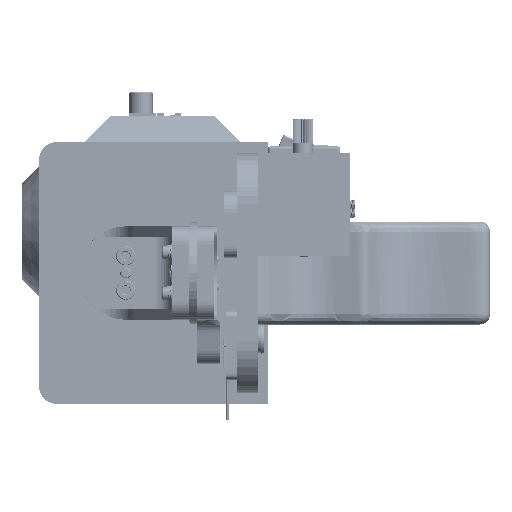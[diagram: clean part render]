
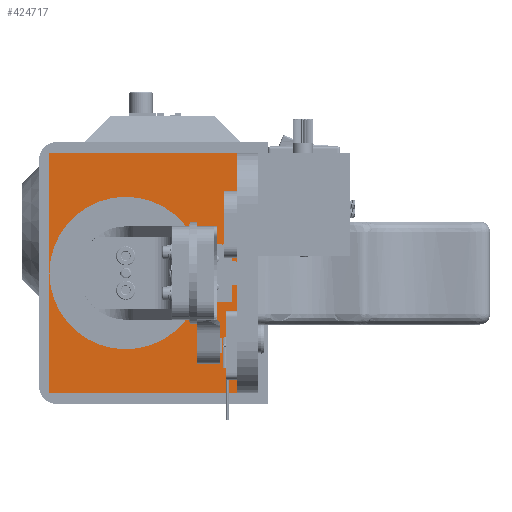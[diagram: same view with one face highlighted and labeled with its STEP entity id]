
A CAD part, left-side view. The second image highlights one B-rep face of the part: STEP entity #424717.
In plain terms, the highlighted planar face has unit normal (-1, 0, 0).
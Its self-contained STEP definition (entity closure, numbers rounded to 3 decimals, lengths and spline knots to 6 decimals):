
#22101=PLANE('',#492240);
#34192=CIRCLE('',#492235,0.002489);
#34193=CIRCLE('',#492237,0.002489);
#34194=CIRCLE('',#492239,0.001588);
#81697=LINE('',#973562,#111933);
#81704=LINE('',#973598,#111940);
#81705=LINE('',#973601,#111941);
#81706=LINE('',#973602,#111942);
#111933=VECTOR('',#583653,1.);
#111940=VECTOR('',#583688,1.);
#111941=VECTOR('',#583689,1.);
#111942=VECTOR('',#583690,1.);
#232224=ORIENTED_EDGE('',*,*,#294235,.T.);
#232225=ORIENTED_EDGE('',*,*,#294236,.T.);
#232226=ORIENTED_EDGE('',*,*,#294219,.F.);
#232227=ORIENTED_EDGE('',*,*,#294237,.F.);
#232228=ORIENTED_EDGE('',*,*,#294233,.T.);
#232229=ORIENTED_EDGE('',*,*,#294232,.T.);
#232230=ORIENTED_EDGE('',*,*,#294234,.T.);
#294219=EDGE_CURVE('',#332186,#332187,#81697,.T.);
#294232=EDGE_CURVE('',#332199,#332199,#34192,.T.);
#294233=EDGE_CURVE('',#332200,#332200,#34193,.T.);
#294234=EDGE_CURVE('',#332201,#332201,#34194,.T.);
#294235=EDGE_CURVE('',#332202,#332203,#81704,.T.);
#294236=EDGE_CURVE('',#332203,#332187,#81705,.T.);
#294237=EDGE_CURVE('',#332202,#332186,#81706,.T.);
#332186=VERTEX_POINT('',#973561);
#332187=VERTEX_POINT('',#973563);
#332199=VERTEX_POINT('',#973590);
#332200=VERTEX_POINT('',#973593);
#332201=VERTEX_POINT('',#973596);
#332202=VERTEX_POINT('',#973599);
#332203=VERTEX_POINT('',#973600);
#364730=EDGE_LOOP('',(#232224,#232225,#232226,#232227));
#364731=EDGE_LOOP('',(#232228));
#364732=EDGE_LOOP('',(#232229));
#364733=EDGE_LOOP('',(#232230));
#393037=FACE_BOUND('',#364730,.T.);
#393038=FACE_BOUND('',#364731,.T.);
#393039=FACE_BOUND('',#364732,.T.);
#393040=FACE_BOUND('',#364733,.T.);
#424717=ADVANCED_FACE('',(#393037,#393038,#393039,#393040),#22101,.F.);
#492235=AXIS2_PLACEMENT_3D('',#973589,#583676,#583677);
#492237=AXIS2_PLACEMENT_3D('',#973592,#583680,#583681);
#492239=AXIS2_PLACEMENT_3D('',#973595,#583684,#583685);
#492240=AXIS2_PLACEMENT_3D('',#973597,#583686,#583687);
#583653=DIRECTION('',(0.,0.,-1.));
#583676=DIRECTION('',(1.,0.,0.));
#583677=DIRECTION('',(0.,1.,0.));
#583680=DIRECTION('',(1.,0.,0.));
#583681=DIRECTION('',(0.,1.,0.));
#583684=DIRECTION('',(1.,0.,0.));
#583685=DIRECTION('',(0.,1.,0.));
#583686=DIRECTION('',(1.,0.,0.));
#583687=DIRECTION('',(0.,0.,1.));
#583688=DIRECTION('',(0.,0.,-1.));
#583689=DIRECTION('',(0.,-1.,0.));
#583690=DIRECTION('',(0.,-1.,0.));
#973561=CARTESIAN_POINT('',(-0.17648,-0.032535,0.05508));
#973562=CARTESIAN_POINT('',(-0.17648,-0.032535,0.020155));
#973563=CARTESIAN_POINT('',(-0.17648,-0.032535,-0.01477));
#973589=CARTESIAN_POINT('',(-0.17648,0.,0.007455));
#973590=CARTESIAN_POINT('',(-0.17648,0.002489,0.007455));
#973592=CARTESIAN_POINT('',(-0.17648,0.,0.032855));
#973593=CARTESIAN_POINT('',(-0.17648,0.002489,0.032855));
#973595=CARTESIAN_POINT('',(-0.17648,0.,0.020155));
#973596=CARTESIAN_POINT('',(-0.17648,0.001588,0.020155));
#973597=CARTESIAN_POINT('',(-0.17648,-0.003175,0.020155));
#973598=CARTESIAN_POINT('',(-0.17648,0.022225,0.020155));
#973599=CARTESIAN_POINT('',(-0.17648,0.022225,0.05508));
#973600=CARTESIAN_POINT('',(-0.17648,0.022225,-0.01477));
#973601=CARTESIAN_POINT('',(-0.17648,-0.003175,-0.01477));
#973602=CARTESIAN_POINT('',(-0.17648,-0.003175,0.05508));
